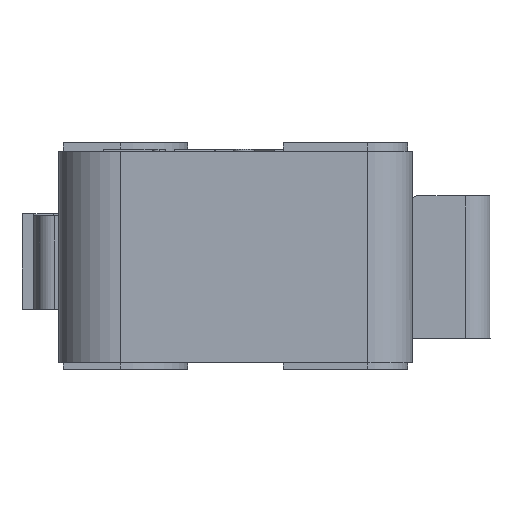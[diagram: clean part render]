
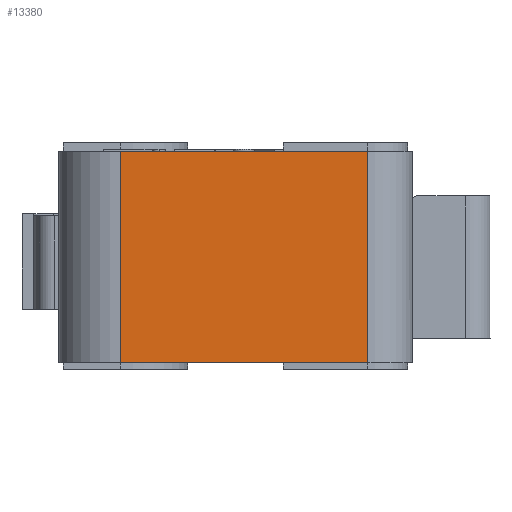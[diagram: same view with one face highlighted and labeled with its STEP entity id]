
A CAD part, left-side view. The second image highlights one B-rep face of the part: STEP entity #13380.
In plain terms, the highlighted planar face has unit normal (-1, 0, 0).
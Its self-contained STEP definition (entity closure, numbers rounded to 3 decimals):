
#602=DIRECTION('',(0.,0.,1.));
#603=VECTOR('',#602,9.5);
#604=CARTESIAN_POINT('',(-27.322,-2.908,
-4.7));
#605=LINE('',#604,#603);
#614=DIRECTION('',(0.,-1.,0.));
#615=VECTOR('',#614,11.1);
#616=CARTESIAN_POINT('',(-27.322,8.192,4.8));
#617=LINE('',#616,#615);
#622=DIRECTION('',(0.,0.,-1.));
#623=VECTOR('',#622,9.5);
#624=CARTESIAN_POINT('',(-27.322,8.192,4.8));
#625=LINE('',#624,#623);
#6016=DIRECTION('',(0.,-1.,0.));
#6017=VECTOR('',#6016,11.1);
#6018=CARTESIAN_POINT('',(-27.322,8.192,
-4.7));
#6019=LINE('',#6018,#6017);
#9900=CARTESIAN_POINT('',(-27.322,-2.908,
-4.7));
#9901=CARTESIAN_POINT('',(-27.322,-2.908,
4.8));
#9902=VERTEX_POINT('',#9900);
#9903=VERTEX_POINT('',#9901);
#9904=CARTESIAN_POINT('',(-27.322,8.192,4.8));
#9905=CARTESIAN_POINT('',(-27.322,8.192,
-4.7));
#9906=VERTEX_POINT('',#9904);
#9907=VERTEX_POINT('',#9905);
#13366=CARTESIAN_POINT('',(-27.322,10.992,
-4.7));
#13367=DIRECTION('',(-1.,0.,0.));
#13368=DIRECTION('',(0.,-1.,0.));
#13369=AXIS2_PLACEMENT_3D('',#13366,#13367,#13368);
#13370=PLANE('',#13369);
#13372=ORIENTED_EDGE('',*,*,#13371,.F.);
#13374=ORIENTED_EDGE('',*,*,#13373,.T.);
#13375=ORIENTED_EDGE('',*,*,#13355,.F.);
#13377=ORIENTED_EDGE('',*,*,#13376,.F.);
#13378=EDGE_LOOP('',(#13372,#13374,#13375,#13377));
#13379=FACE_OUTER_BOUND('',#13378,.F.);
#13380=ADVANCED_FACE('',(#13379),#13370,.T.);
#13355=EDGE_CURVE('',#9902,#9903,#605,.T.);
#13371=EDGE_CURVE('',#9906,#9907,#625,.T.);
#13373=EDGE_CURVE('',#9906,#9903,#617,.T.);
#13376=EDGE_CURVE('',#9907,#9902,#6019,.T.);
